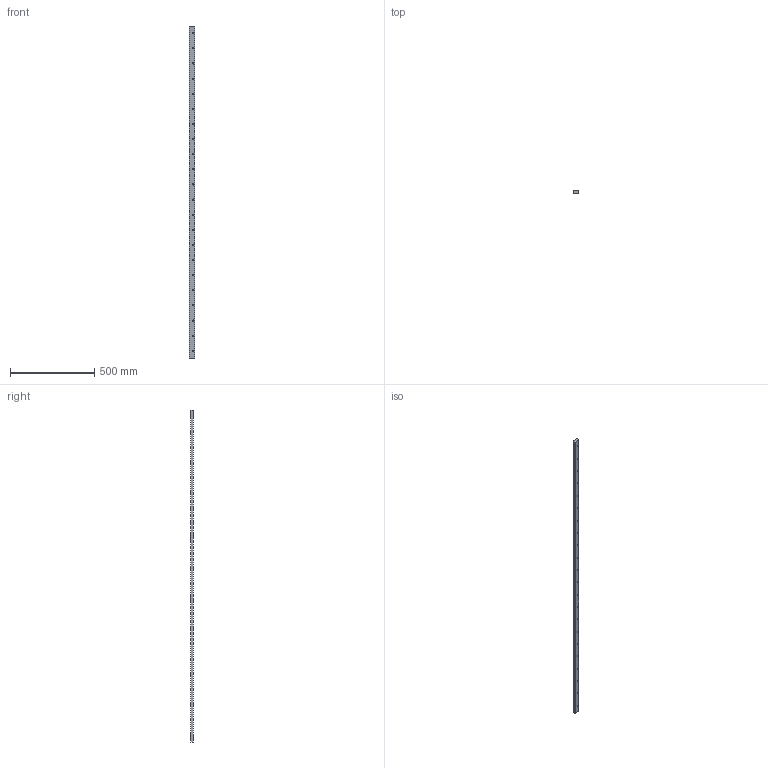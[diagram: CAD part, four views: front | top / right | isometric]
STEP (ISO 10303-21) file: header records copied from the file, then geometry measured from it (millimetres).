
FILE_DESCRIPTION(('STEP AP203'),'1');
FILE_NAME('track_ft3216l1976p3.stp','2022-07-04T01:45:37',('TraceParts'),('TraceParts S.A.'),'Spatial InterOp 3D',' ',' ');
FILE_SCHEMA(('CONFIG_CONTROL_DESIGN'));
Length unit declared in the file: millimetre
Products named in the file (1): 1
Bounding box: 32.4 x 16.4 x 1976 mm (x, y, z)
Volume: 1027195 mm3; surface area: 199040.7 mm2
Topology: 1 solids, 1 shells, 120 faces, 288 edges, 192 vertices
Faces by surface type: cylinder 88, plane 32
Entity records: 3720 total; most frequent: DIRECTION 706, CARTESIAN_POINT 601, ORIENTED_EDGE 576, AXIS2_PLACEMENT_3D 297, EDGE_CURVE 288, VERTEX_POINT 192, EDGE_LOOP 186, CIRCLE 176
